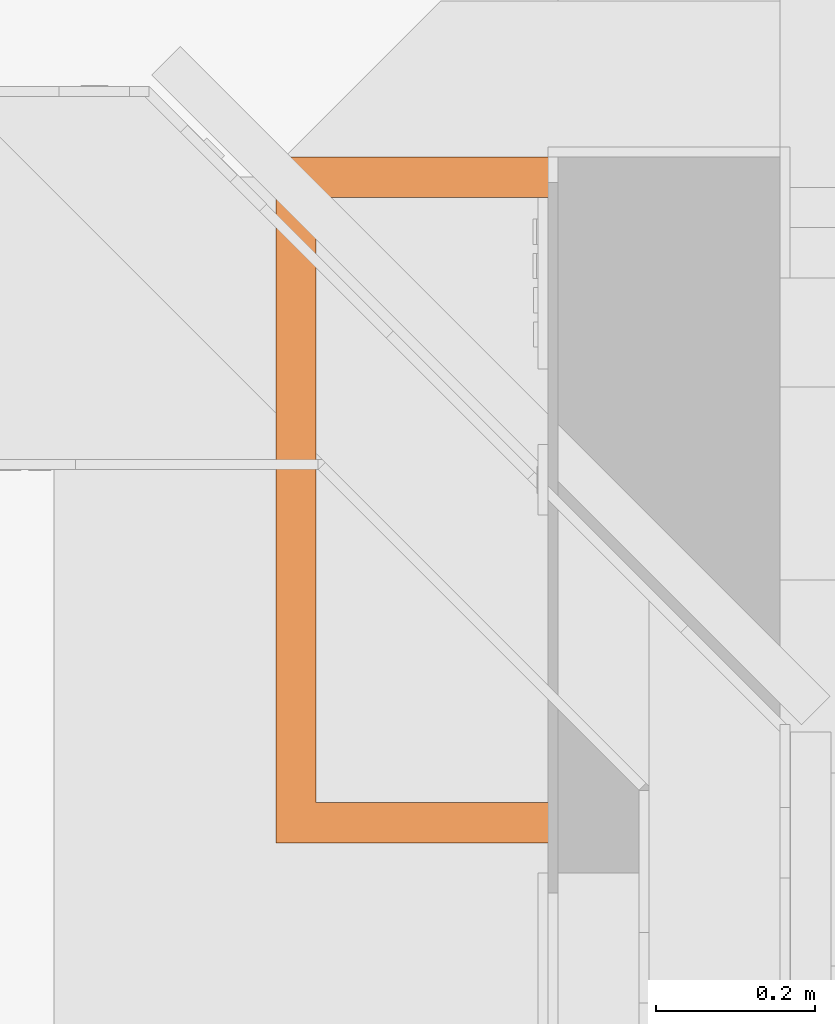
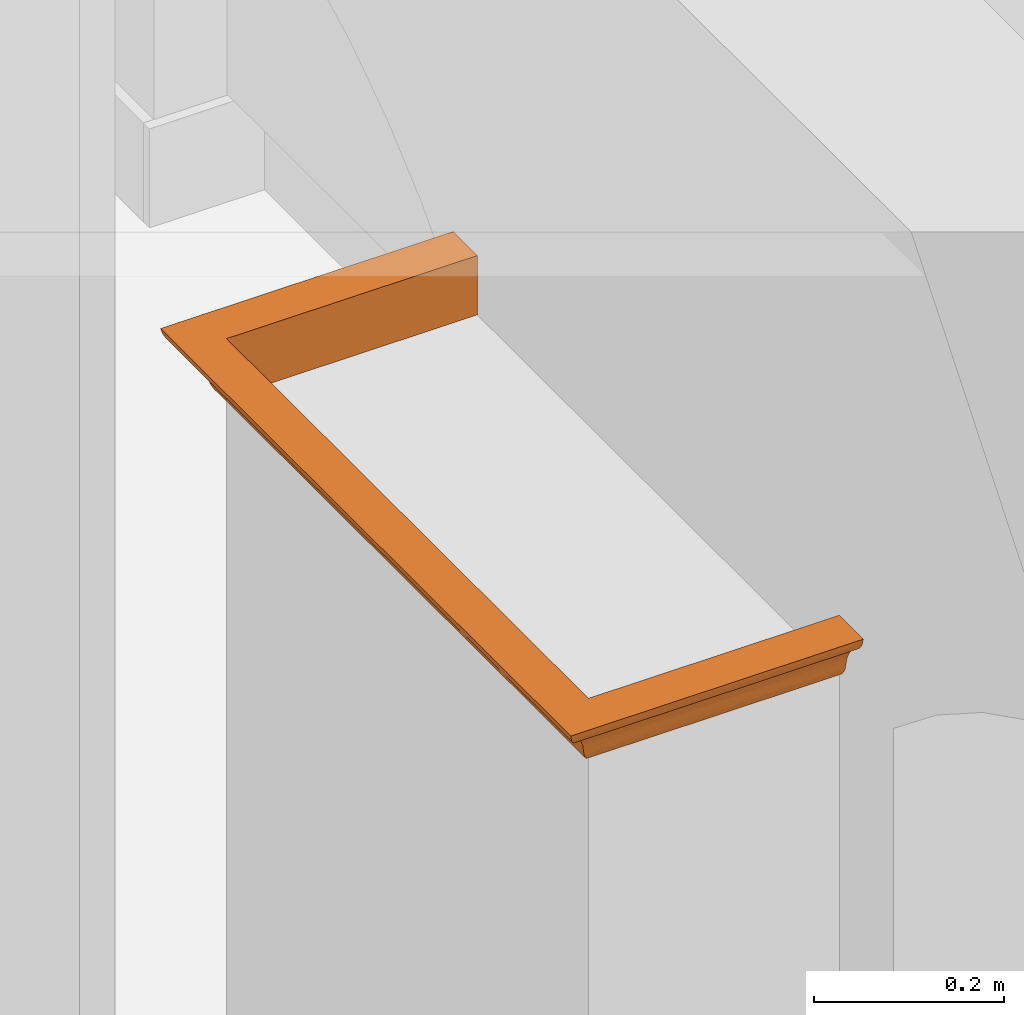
# One storey, part 81 of 81: 1 proxy.
"""IFC2X3 building model written with IfcOpenShell, lengths in feet."""

from ifc_helpers import new_model, entity, si_unit, converted_unit, derived_unit, direction, frame, origin, place, context, subcontext, project, spatial, faceted_brep, source, transform, mapped, material, type_object, type_shapes, element, save


model = new_model("IFC2X3")

# Units and contexts
model_context = context("Model", 3, precision=0.0001, world=origin(), true_north=direction((6.12303176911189e-17, 1.0)))
body_context = subcontext(model_context, "Body", "Model", "MODEL_VIEW")
ifc_project = project(units=[converted_unit("LENGTHUNIT", "FOOT", entity("IfcRatioMeasure", 0.3048), si_unit("LENGTHUNIT", "METRE"), dimensions=[1, 0, 0, 0, 0, 0, 0]), converted_unit("AREAUNIT", "SQUARE FOOT", entity("IfcRatioMeasure", 0.09290304), si_unit("AREAUNIT", "SQUARE_METRE"), dimensions=[2, 0, 0, 0, 0, 0, 0]), converted_unit("VOLUMEUNIT", "CUBIC FOOT", entity("IfcRatioMeasure", 0.028316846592), si_unit("VOLUMEUNIT", "CUBIC_METRE"), dimensions=[3, 0, 0, 0, 0, 0, 0]), converted_unit("PLANEANGLEUNIT", "DEGREE", entity("IfcRatioMeasure", 0.0174532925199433), si_unit("PLANEANGLEUNIT", "RADIAN"), dimensions=[0, 0, 0, 0, 0, 0, 0]), si_unit("MASSUNIT", "GRAM", prefix="KILO"), derived_unit("MASSDENSITYUNIT", [(si_unit("MASSUNIT", "GRAM", prefix="KILO"), 1), (si_unit("LENGTHUNIT", "METRE"), -3)]), derived_unit("MOMENTOFINERTIAUNIT", [(si_unit("LENGTHUNIT", "METRE"), 4)]), si_unit("TIMEUNIT", "SECOND"), si_unit("FREQUENCYUNIT", "HERTZ"), si_unit("THERMODYNAMICTEMPERATUREUNIT", "DEGREE_CELSIUS"), derived_unit("THERMALTRANSMITTANCEUNIT", [(si_unit("MASSUNIT", "GRAM", prefix="KILO"), 1), (si_unit("THERMODYNAMICTEMPERATUREUNIT", "KELVIN"), -1), (si_unit("TIMEUNIT", "SECOND"), -3)]), derived_unit("VOLUMETRICFLOWRATEUNIT", [(si_unit("LENGTHUNIT", "METRE"), 3), (si_unit("TIMEUNIT", "SECOND"), -1)]), si_unit("ELECTRICCURRENTUNIT", "AMPERE"), si_unit("ELECTRICVOLTAGEUNIT", "VOLT"), si_unit("POWERUNIT", "WATT"), si_unit("FORCEUNIT", "NEWTON"), si_unit("ILLUMINANCEUNIT", "LUX"), si_unit("LUMINOUSFLUXUNIT", "LUMEN"), si_unit("LUMINOUSINTENSITYUNIT", "CANDELA"), derived_unit("USERDEFINED", [(si_unit("MASSUNIT", "GRAM", prefix="KILO"), -1), (si_unit("LENGTHUNIT", "METRE"), -2), (si_unit("TIMEUNIT", "SECOND"), 3), (si_unit("LUMINOUSFLUXUNIT", "LUMEN"), 1)]), derived_unit("LINEARVELOCITYUNIT", [(si_unit("LENGTHUNIT", "METRE"), 1), (si_unit("TIMEUNIT", "SECOND"), -1)]), si_unit("PRESSUREUNIT", "PASCAL"), derived_unit("USERDEFINED", [(si_unit("LENGTHUNIT", "METRE"), -2), (si_unit("MASSUNIT", "GRAM", prefix="KILO"), 1), (si_unit("TIMEUNIT", "SECOND"), -2)]), derived_unit("LINEARFORCEUNIT", [(si_unit("MASSUNIT", "GRAM", prefix="KILO"), 1), (si_unit("LENGTHUNIT", "METRE"), 1), (si_unit("TIMEUNIT", "SECOND"), -2), (si_unit("LENGTHUNIT", "METRE"), -1)]), derived_unit("PLANARFORCEUNIT", [(si_unit("MASSUNIT", "GRAM", prefix="KILO"), 1), (si_unit("LENGTHUNIT", "METRE"), 1), (si_unit("TIMEUNIT", "SECOND"), -2), (si_unit("LENGTHUNIT", "METRE"), -2)])], contexts=[model_context])

# Site, building, storey
site_placement = place(None, origin())
site = spatial("IfcSite", under=ifc_project, at=site_placement, Name="Default", CompositionType="ELEMENT")
building_placement = place(site_placement, origin())
building = spatial("IfcBuilding", under=site, at=building_placement, CompositionType="ELEMENT")
storey_placement = place(building_placement, origin())
storey = spatial("IfcBuildingStorey", under=building, at=storey_placement, Name="First floor", CompositionType="ELEMENT", Elevation=0.0)

# Proxy
ifc_material = material(Name="Default New Material")
building_element_proxy_type = type_object("IfcBuildingElementProxyType", Name="Generic Models 28:Generic Models 28", PredefinedType="NOTDEFINED", material=ifc_material)
shared_shape = source(origin(), body_context, "Body", "Brep", [
    faceted_brep([(1.17190049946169, 2.68927499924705, 0.0179947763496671), (1.17190049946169, 2.70323561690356, 0.0344208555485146), (1.17190049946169, 2.71302868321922, 0.0536253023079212), (1.17190049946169, 2.71812551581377, 0.0745713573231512), (1.17190049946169, 2.72630874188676, 0.108201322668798), (1.17190049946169, 2.74203201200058, 0.139035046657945), (1.17190049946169, 2.76444649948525, 0.165407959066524), (1.17190049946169, 2.79234214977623, 0.185896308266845), (1.17190049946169, 2.80971664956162, 0.198657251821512), (1.17190049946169, 2.82367726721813, 0.215083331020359), (1.17190049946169, 2.83347033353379, 0.234287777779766), (1.17190049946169, 2.83856716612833, 0.255233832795), (1.17190049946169, 2.67190049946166, 0.255233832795), (1.17190049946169, 2.67190049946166, 0.00523383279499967), (1.17190049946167, 0.171900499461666, 0.00523383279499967), (1.17190049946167, 0.171900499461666, 0.255233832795), (1.17190049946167, 0.00523383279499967, 0.255233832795), (1.17190049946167, 0.0103306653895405, 0.234287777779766), (1.17190049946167, 0.0201237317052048, 0.215083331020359), (1.17190049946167, 0.0340843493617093, 0.198657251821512), (1.17190049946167, 0.0514588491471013, 0.185896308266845), (1.17190049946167, 0.0793544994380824, 0.165407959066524), (1.17190049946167, 0.101768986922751, 0.139035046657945), (1.17190049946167, 0.117492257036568, 0.108201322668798), (1.17190049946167, 0.125675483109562, 0.0745713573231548), (1.17190049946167, 0.130772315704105, 0.0536253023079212), (1.17190049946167, 0.140565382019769, 0.0344208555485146), (1.17190049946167, 0.154525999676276, 0.0179947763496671), (0.476953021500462, 2.68508272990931, 0.0143188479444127), (0.1545259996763, 2.68927499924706, 0.0179947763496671), (0.663213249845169, 2.69673399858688, 0.0258009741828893), (0.130772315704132, 2.71302868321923, 0.0536253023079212), (0.125675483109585, 2.71812551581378, 0.0745713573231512), (0.430274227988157, 2.71812551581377, 0.0745713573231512), (0.734872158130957, 2.71812551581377, 0.0745713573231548), (0.77341230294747, 2.68529237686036, 0.0144923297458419), (0.671900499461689, 2.67190049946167, 0.00523383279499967), (0.689724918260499, 2.71431498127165, 0.0573324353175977), (0.648787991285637, 2.71812551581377, 0.0745713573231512), (0.862932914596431, 2.70869180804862, 0.0437376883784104), (0.50314522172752, 2.70894934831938, 0.0442465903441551), (0.140565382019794, 2.70323561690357, 0.0344208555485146), (0.171900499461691, 2.67190049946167, 0.00523383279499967), (0.644696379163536, 2.73327181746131, 0.124076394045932), (0.117492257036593, 2.72630874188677, 0.108201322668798), (0.741902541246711, 2.7235390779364, 0.100011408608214), (0.079354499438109, 2.76444649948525, 0.165407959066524), (0.0514588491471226, 2.79234214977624, 0.185896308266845), (0.562703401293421, 2.79234214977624, 0.185896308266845), (0.823374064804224, 2.79234214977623, 0.185896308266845), (0.867301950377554, 2.79234214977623, 0.185896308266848), (0.625627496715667, 2.75324096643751, 0.15377374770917), (0.101768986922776, 2.74203201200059, 0.139035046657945), (0.570637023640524, 2.81794851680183, 0.207384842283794), (0.369511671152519, 2.80608695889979, 0.195449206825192), (0.0201237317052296, 2.82367726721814, 0.215083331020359), (0.034084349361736, 2.80971664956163, 0.198657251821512), (0.715002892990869, 2.80602920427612, 0.195400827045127), (0.740866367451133, 2.83539347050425, 0.24004443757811), (0.309832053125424, 2.83856716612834, 0.255233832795), (0.614430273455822, 2.83856716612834, 0.255233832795), (0.867301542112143, 2.83856716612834, 0.255233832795), (0.798513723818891, 2.82913345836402, 0.224400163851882), (0.898316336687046, 2.8173063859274, 0.206617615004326), (0.0103306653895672, 2.8334703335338, 0.234287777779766), (0.00523383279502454, 2.83856716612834, 0.255233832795), (0.377707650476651, 2.82938751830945, 0.22490213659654), (0.00523383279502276, 2.53396838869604, 0.255233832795), (0.00523383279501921, 2.22937002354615, 0.255233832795), (0.00523383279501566, 1.72649886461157, 0.255233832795), (0.00523383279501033, 1.22362770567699, 0.255233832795), (0.00523383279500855, 0.9190293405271, 0.255233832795), (0.00523383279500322, 0.614430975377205, 0.255233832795), (0.00523383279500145, 0.309832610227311, 0.255233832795), (0.00523383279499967, 0.00523383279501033, 0.255233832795), (0.309832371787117, 0.00523383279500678, 0.255233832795), (0.614430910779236, 0.00523383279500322, 0.255233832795), (0.867301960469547, 0.00523383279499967, 0.255233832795), (0.171900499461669, 0.171900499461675, 0.255233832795), (0.171900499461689, 2.67190049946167, 0.255233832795), (0.154525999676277, 0.154525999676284, 0.0179947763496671), (0.140565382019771, 0.140565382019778, 0.0344208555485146), (0.146718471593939, 0.391615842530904, 0.0262134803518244), (0.13485361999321, 0.500318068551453, 0.044242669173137), (0.130772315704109, 0.130772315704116, 0.0536253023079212), (0.146284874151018, 0.697641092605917, 0.0267335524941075), (0.171900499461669, 0.476499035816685, 0.00523383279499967), (0.171900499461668, 0.171900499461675, 0.00523383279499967), (0.171900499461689, 2.36730216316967, 0.00523383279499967), (0.134853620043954, 2.34348292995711, 0.044242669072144), (0.125675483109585, 2.41352726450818, 0.0745713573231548), (0.158838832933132, 0.628798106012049, 0.014219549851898), (0.129502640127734, 2.1542799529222, 0.0572810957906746), (0.136111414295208, 2.04847452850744, 0.0418275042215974), (0.125675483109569, 0.734872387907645, 0.0745713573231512), (0.133081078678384, 1.05210703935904, 0.0479768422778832), (0.14671847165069, 2.45218515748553, 0.0262134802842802), (0.171900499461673, 0.781097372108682, 0.00523383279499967), (0.156071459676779, 1.05737580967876, 0.0165874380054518), (0.158838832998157, 2.21500289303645, 0.0142195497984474), (0.171900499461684, 2.06270362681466, 0.00523383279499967), (0.142403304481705, 1.00278052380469, 0.0317653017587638), (0.125675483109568, 0.430273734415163, 0.0745713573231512), (0.148407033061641, 1.56183763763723, 0.024259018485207), (0.142852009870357, 1.84223311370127, 0.0311459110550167), (0.155222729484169, 1.87247129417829, 0.0173524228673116), (0.17190049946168, 1.42190039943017, 0.00523383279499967), (0.171900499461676, 1.10149888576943, 0.00523383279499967), (0.146284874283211, 2.14615990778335, 0.0267335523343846), (0.125675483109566, 0.125675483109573, 0.0745713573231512), (0.125675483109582, 2.1938159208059, 0.0745713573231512), (0.132892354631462, 1.7772891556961, 0.0484012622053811), (0.12567548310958, 1.72649875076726, 0.0745713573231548), (0.125675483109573, 0.897590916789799, 0.0745713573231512), (0.125675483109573, 1.03947063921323, 0.0745713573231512), (0.130780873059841, 1.41360455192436, 0.0536022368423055), (0.139570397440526, 1.31496603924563, 0.0359455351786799), (0.171900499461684, 1.74230211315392, 0.00523383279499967), (0.125675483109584, 2.1089286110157, 0.0745713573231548), (0.125675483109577, 1.34406889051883, 0.0745713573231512), (0.12567548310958, 1.66950632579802, 0.0745713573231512), (0.121075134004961, 0.583245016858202, 0.0972607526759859), (0.110198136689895, 0.576909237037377, 0.124721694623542), (0.109802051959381, 1.13026598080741, 0.125483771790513), (0.110111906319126, 2.14589785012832, 0.124888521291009), (0.0900924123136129, 1.89573425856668, 0.154312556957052), (0.0514588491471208, 2.02042670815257, 0.185896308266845), (0.0742402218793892, 1.53337528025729, 0.169956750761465), (0.0514588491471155, 1.59528962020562, 0.185896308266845), (0.0514588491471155, 1.80252291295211, 0.185896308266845), (0.101768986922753, 0.10176898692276, 0.139035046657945), (0.090401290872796, 0.735284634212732, 0.153957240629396), (0.120351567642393, 1.93166109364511, 0.0997174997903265), (0.0735488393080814, 1.0537834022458, 0.170540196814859), (0.0918705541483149, 1.31580551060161, 0.152235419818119), (0.0514588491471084, 0.823374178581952, 0.185896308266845), (0.0514588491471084, 1.0412778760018, 0.185896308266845), (0.051458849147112, 1.42190039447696, 0.185896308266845), (0.12003041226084, 1.40039947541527, 0.10076057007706), (0.11749225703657, 0.117492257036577, 0.108201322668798), (0.0793544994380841, 0.079354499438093, 0.165407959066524), (0.0514588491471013, 0.0514588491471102, 0.185896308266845), (0.0340843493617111, 0.03408434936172, 0.198657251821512), (0.0514588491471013, 0.356057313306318, 0.185896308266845), (0.0514588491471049, 0.660655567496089, 0.185896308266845), (0.0514588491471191, 2.18314522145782, 0.185896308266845), (0.0514588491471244, 2.48774368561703, 0.185896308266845), (0.110045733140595, 1.63804491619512, 0.125016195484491), (0.0201237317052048, 0.0201237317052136, 0.215083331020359), (0.0262768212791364, 0.271174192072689, 0.206875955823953), (0.0144119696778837, 0.379876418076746, 0.224905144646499), (0.0103306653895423, 0.0103306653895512, 0.234287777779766), (0.0258432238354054, 0.577199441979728, 0.207396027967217), (0.0144119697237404, 2.46392458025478, 0.224905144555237), (0.0383971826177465, 0.50835645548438, 0.194882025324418), (0.0258432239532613, 2.26660155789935, 0.207396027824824), (0.0350858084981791, 1.96190868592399, 0.197738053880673), (0.022561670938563, 1.96005217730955, 0.211601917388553), (0.0126394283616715, 0.931665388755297, 0.228639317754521), (0.0262768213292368, 2.57262680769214, 0.206875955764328), (0.0350858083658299, 0.881892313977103, 0.197738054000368), (0.0383971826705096, 2.3354445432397, 0.19488202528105), (0.0130776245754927, 1.94497679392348, 0.227675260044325), (0.022215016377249, 0.891287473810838, 0.212076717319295), (0.0194664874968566, 1.47506317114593, 0.216083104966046), (0.0179500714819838, 1.17032714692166, 0.218503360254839), (0.00992636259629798, 1.37788729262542, 0.235399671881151), (0.00920603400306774, 1.68890578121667, 0.237499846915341), (0.0286427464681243, 1.21386663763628, 0.204167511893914), (0.0331909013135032, 1.58090241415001, 0.199500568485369), (0.671900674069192, 0.171900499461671, 0.00523383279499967), (0.843023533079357, 0.157931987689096, 0.0149748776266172), (0.524156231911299, 0.158322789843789, 0.0146469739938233), (0.65623294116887, 0.146343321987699, 0.0266629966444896), (0.893062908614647, 0.135109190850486, 0.0437376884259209), (0.58257308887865, 0.132064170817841, 0.0503354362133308), (0.430274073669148, 0.125675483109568, 0.0745713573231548), (0.894942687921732, 0.12865606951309, 0.0600386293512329), (0.734872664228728, 0.125675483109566, 0.0745713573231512), (0.785942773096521, 0.125675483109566, 0.0745713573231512), (0.658077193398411, 0.110529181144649, 0.124076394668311), (0.745996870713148, 0.120210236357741, 0.100179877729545), (0.537202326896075, 0.0710043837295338, 0.17262678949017), (0.636834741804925, 0.0913303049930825, 0.152874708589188), (0.823374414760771, 0.0514588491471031, 0.185896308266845), (0.562703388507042, 0.0514588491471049, 0.185896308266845), (0.867301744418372, 0.0514588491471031, 0.185896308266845), (0.898316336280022, 0.0264946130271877, 0.206617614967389), (0.570637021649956, 0.0258524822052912, 0.207384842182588), (0.715002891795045, 0.0377717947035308, 0.195400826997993), (0.377707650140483, 0.0144134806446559, 0.224902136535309), (0.370422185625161, 0.0373840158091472, 0.195727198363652), (0.798513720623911, 0.0146675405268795, 0.224400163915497), (0.740866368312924, 0.00840752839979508, 0.240044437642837)], [[[0, 1, 2, 3, 4, 5, 6, 7, 8, 9, 10, 11, 12, 13]], [[14, 15, 16, 17, 18, 19, 20, 21, 22, 23, 24, 25, 26, 27]], [[28, 29, 30]], [[31, 32, 33]], [[3, 2, 34]], [[35, 13, 36]], [[0, 30, 1]], [[37, 33, 38, 34]], [[39, 2, 1]], [[31, 40, 41]], [[37, 39, 40]], [[36, 28, 35]], [[40, 30, 41]], [[39, 30, 40]], [[40, 31, 33]], [[28, 42, 29]], [[37, 2, 39]], [[30, 39, 1]], [[33, 37, 40]], [[41, 30, 29]], [[2, 37, 34]], [[35, 28, 30]], [[42, 28, 36]], [[30, 0, 35]], [[13, 35, 0]], [[43, 5, 4]], [[32, 44, 45]], [[45, 43, 4]], [[46, 47, 48, 49]], [[6, 49, 50, 8, 7]], [[5, 43, 51]], [[52, 51, 43]], [[3, 45, 4]], [[6, 51, 49]], [[43, 44, 52]], [[51, 52, 46]], [[51, 46, 49]], [[45, 3, 34, 38, 33, 32]], [[51, 6, 5]], [[43, 45, 44]], [[53, 54, 55]], [[47, 56, 54]], [[57, 50, 49, 48]], [[58, 59, 60, 61]], [[62, 9, 63]], [[57, 8, 50]], [[54, 57, 48]], [[58, 10, 62]], [[10, 61, 11]], [[64, 65, 59]], [[10, 58, 61]], [[9, 62, 10]], [[63, 8, 57]], [[54, 53, 57]], [[66, 53, 55]], [[64, 59, 66]], [[62, 53, 66]], [[55, 64, 66]], [[57, 53, 63]], [[47, 54, 48]], [[54, 56, 55]], [[62, 63, 53]], [[8, 63, 9]], [[66, 59, 58]], [[66, 58, 62]], [[12, 11, 61, 60, 59, 65, 67, 68, 69, 70, 71, 72, 73, 74, 75, 76, 77, 16, 15, 78, 79]], [[13, 12, 79, 42, 36]], [[80, 81, 82]], [[83, 81, 84]], [[85, 82, 83]], [[80, 86, 87]], [[29, 42, 88]], [[89, 90, 31]], [[80, 82, 91]], [[92, 89, 93]], [[94, 95, 83]], [[96, 89, 41]], [[97, 91, 98]], [[99, 88, 100]], [[97, 86, 91]], [[83, 95, 101]], [[29, 96, 41]], [[94, 83, 102]], [[103, 104, 105]], [[41, 89, 31]], [[98, 106, 107, 97]], [[108, 104, 93]], [[84, 109, 102]], [[90, 110, 44, 32, 31]], [[108, 99, 105]], [[111, 112, 92]], [[83, 84, 102]], [[95, 94, 113, 114]], [[115, 95, 114]], [[98, 103, 106]], [[80, 91, 86]], [[98, 91, 85]], [[95, 116, 101]], [[95, 115, 116]], [[85, 101, 98]], [[105, 104, 108]], [[117, 105, 100]], [[88, 99, 29]], [[99, 108, 96]], [[103, 117, 106]], [[100, 105, 99]], [[117, 103, 105]], [[89, 92, 90]], [[116, 104, 103]], [[93, 104, 111]], [[115, 112, 111]], [[108, 93, 89]], [[111, 92, 93]], [[92, 112, 118, 110, 90]], [[99, 96, 29]], [[89, 96, 108]], [[83, 82, 81]], [[91, 82, 85]], [[115, 114, 119, 120, 112]], [[111, 104, 116]], [[111, 116, 115]], [[98, 116, 103]], [[98, 101, 116]], [[83, 101, 85]], [[121, 113, 94, 102, 109]], [[121, 122, 123]], [[124, 125, 52]], [[126, 46, 125]], [[127, 128, 129, 126]], [[130, 131, 122]], [[132, 110, 118, 112, 120]], [[131, 133, 134]], [[133, 135, 136, 137, 128]], [[138, 132, 120]], [[123, 131, 134]], [[122, 139, 130]], [[52, 125, 46]], [[130, 140, 131]], [[138, 120, 119, 114, 113]], [[124, 52, 44]], [[131, 140, 135]], [[140, 141, 142, 143, 144, 135]], [[46, 126, 145, 146, 56, 47]], [[147, 134, 125]], [[132, 124, 44]], [[110, 132, 44]], [[123, 147, 138]], [[124, 132, 147]], [[121, 123, 138]], [[138, 147, 132]], [[124, 147, 125]], [[139, 122, 121]], [[123, 122, 131]], [[139, 121, 109]], [[138, 113, 121]], [[123, 134, 147]], [[128, 127, 133]], [[127, 134, 133]], [[133, 131, 135]], [[127, 125, 134]], [[125, 127, 126]], [[142, 148, 149]], [[150, 148, 151]], [[152, 149, 150]], [[153, 67, 64]], [[142, 149, 154]], [[155, 156, 157]], [[72, 158, 150]], [[159, 153, 55]], [[160, 154, 152]], [[161, 146, 145]], [[144, 143, 154]], [[162, 153, 155]], [[56, 159, 55]], [[72, 150, 73]], [[67, 153, 68]], [[155, 161, 156]], [[55, 153, 64]], [[158, 163, 150]], [[156, 145, 126, 129]], [[160, 136, 135, 144]], [[151, 74, 73]], [[67, 65, 64]], [[164, 165, 166]], [[153, 162, 68]], [[154, 160, 144]], [[167, 164, 166]], [[68, 162, 69]], [[150, 151, 73]], [[70, 166, 158]], [[158, 166, 165]], [[163, 160, 152]], [[142, 154, 143]], [[168, 163, 165]], [[160, 168, 136]], [[160, 163, 168]], [[169, 168, 164]], [[146, 161, 56]], [[161, 155, 159]], [[156, 161, 145]], [[169, 129, 128, 137]], [[157, 164, 162]], [[150, 163, 152]], [[165, 163, 158]], [[164, 157, 169]], [[136, 168, 137]], [[129, 169, 156]], [[137, 168, 169]], [[158, 72, 71, 70]], [[168, 165, 164]], [[70, 69, 166]], [[167, 166, 69]], [[157, 156, 169]], [[162, 155, 157]], [[161, 159, 56]], [[153, 159, 155]], [[150, 149, 148]], [[154, 149, 152]], [[69, 162, 167]], [[164, 167, 162]], [[79, 78, 87, 86, 97, 107, 106, 117, 100, 88, 42]], [[170, 171, 172]], [[173, 174, 175]], [[171, 27, 26]], [[81, 80, 173]], [[175, 176, 84]], [[81, 173, 175]], [[26, 173, 171]], [[24, 177, 25]], [[176, 175, 178]], [[176, 109, 84]], [[81, 175, 84]], [[174, 177, 175]], [[172, 87, 170]], [[177, 24, 179, 178]], [[27, 171, 14]], [[173, 26, 174]], [[177, 174, 25]], [[174, 26, 25]], [[175, 177, 178]], [[172, 171, 173]], [[14, 171, 170]], [[173, 80, 172]], [[87, 172, 80]], [[23, 180, 181]], [[182, 183, 21]], [[180, 139, 181]], [[139, 109, 181]], [[140, 183, 182]], [[181, 109, 176, 178, 179, 24]], [[130, 180, 183]], [[182, 184, 185, 141]], [[21, 20, 19, 186, 184]], [[183, 180, 22]], [[22, 180, 23]], [[183, 140, 130]], [[184, 182, 21]], [[140, 182, 141]], [[23, 181, 24]], [[22, 21, 183]], [[139, 180, 130]], [[187, 188, 189]], [[19, 189, 186]], [[18, 187, 19]], [[190, 75, 151]], [[142, 191, 148]], [[188, 191, 189]], [[189, 185, 184, 186]], [[148, 188, 190]], [[192, 193, 190]], [[192, 188, 187]], [[190, 151, 148]], [[18, 17, 192]], [[77, 76, 75, 193]], [[17, 77, 193]], [[188, 192, 190]], [[17, 16, 77]], [[75, 74, 151]], [[185, 191, 141]], [[188, 148, 191]], [[141, 191, 142]], [[185, 189, 191]], [[19, 187, 189]], [[192, 187, 18]], [[190, 193, 75]], [[17, 193, 192]], [[87, 78, 15, 14, 170]]]),
])
type_shapes(building_element_proxy_type, [shared_shape])
proxy_placement = place(storey_placement, frame((11.369766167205, 8.36942100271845, 18.494766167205)))
element("IfcBuildingElementProxy", 1, at=proxy_placement, inside=storey, type_object=building_element_proxy_type, material=ifc_material, Name="Generic Models 28:Generic Models 28", ObjectType="Generic Models 28:Generic Models 28", context=body_context, shape_type="MappedRepresentation", body=[
    mapped(shared_shape, transform((0.0, 0.0, 0.0), scale=1.0)),
])

save(model, "model.ifc")
